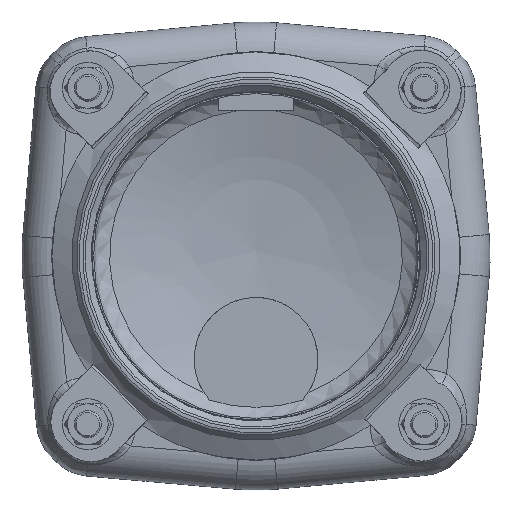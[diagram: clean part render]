
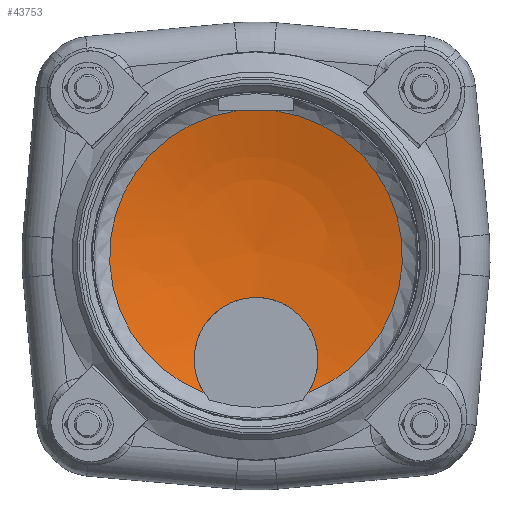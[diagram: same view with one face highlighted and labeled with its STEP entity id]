
A CAD part, front view. The second image highlights one B-rep face of the part: STEP entity #43753.
In plain terms, the highlighted free-form (B-spline) face has degree [2, 2] with [3, 3] control points.
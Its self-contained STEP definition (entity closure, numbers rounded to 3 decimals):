
#41456=CARTESIAN_POINT('',(30.678,120.906,-80.777));
#41457=VERTEX_POINT('',#41456);
#41467=CARTESIAN_POINT('',(-30.678,120.906,-80.777));
#41468=VERTEX_POINT('',#41467);
#41469=CARTESIAN_POINT('',(-30.678,120.906,-80.777));
#41470=CARTESIAN_POINT('',(-32.135,121.369,-78.516));
#41471=CARTESIAN_POINT('',(-33.355,121.869,-76.067));
#41472=CARTESIAN_POINT('',(-34.284,122.388,-73.523));
#41473=CARTESIAN_POINT('',(-35.19,122.893,-71.045));
#41474=CARTESIAN_POINT('',(-35.819,123.416,-68.476));
#41475=CARTESIAN_POINT('',(-36.166,123.933,-65.925));
#41476=CARTESIAN_POINT('',(-36.317,124.157,-64.82));
#41477=CARTESIAN_POINT('',(-36.415,124.381,-63.718));
#41478=CARTESIAN_POINT('',(-36.464,124.601,-62.629));
#41479=CARTESIAN_POINT('',(-36.491,124.726,-62.013));
#41480=CARTESIAN_POINT('',(-36.503,124.849,-61.404));
#41481=CARTESIAN_POINT('',(-36.499,124.972,-60.795));
#41482=CARTESIAN_POINT('',(-36.488,125.378,-58.785));
#41483=CARTESIAN_POINT('',(-36.309,125.795,-56.718));
#41484=CARTESIAN_POINT('',(-35.944,126.211,-54.652));
#41485=CARTESIAN_POINT('',(-35.479,126.741,-52.02));
#41486=CARTESIAN_POINT('',(-34.712,127.269,-49.392));
#41487=CARTESIAN_POINT('',(-33.659,127.771,-46.881));
#41488=CARTESIAN_POINT('',(-32.671,128.243,-44.527));
#41489=CARTESIAN_POINT('',(-31.432,128.693,-42.275));
#41490=CARTESIAN_POINT('',(-29.996,129.106,-40.203));
#41491=CARTESIAN_POINT('',(-29.203,129.334,-39.059));
#41492=CARTESIAN_POINT('',(-28.35,129.551,-37.97));
#41493=CARTESIAN_POINT('',(-27.453,129.755,-36.946));
#41494=CARTESIAN_POINT('',(-26.879,129.885,-36.291));
#41495=CARTESIAN_POINT('',(-26.289,130.01,-35.664));
#41496=CARTESIAN_POINT('',(-25.681,130.129,-35.062));
#41497=CARTESIAN_POINT('',(-25.157,130.232,-34.544));
#41498=CARTESIAN_POINT('',(-24.615,130.333,-34.039));
#41499=CARTESIAN_POINT('',(-24.051,130.431,-33.544));
#41500=CARTESIAN_POINT('',(-22.169,130.758,-31.896));
#41501=CARTESIAN_POINT('',(-20.056,131.056,-30.393));
#41502=CARTESIAN_POINT('',(-17.783,131.307,-29.125));
#41503=CARTESIAN_POINT('',(-15.489,131.56,-27.845));
#41504=CARTESIAN_POINT('',(-13.033,131.766,-26.804));
#41505=CARTESIAN_POINT('',(-10.508,131.916,-26.045));
#41506=CARTESIAN_POINT('',(-8.214,132.052,-25.356));
#41507=CARTESIAN_POINT('',(-5.864,132.143,-24.899));
#41508=CARTESIAN_POINT('',(-3.543,132.187,-24.672));
#41509=CARTESIAN_POINT('',(-2.531,132.207,-24.574));
#41510=CARTESIAN_POINT('',(-1.525,132.218,-24.518));
#41511=CARTESIAN_POINT('',(-0.532,132.22,-24.504));
#41512=CARTESIAN_POINT('',(0.24,132.223,-24.493));
#41513=CARTESIAN_POINT('',(1.007,132.22,-24.506));
#41514=CARTESIAN_POINT('',(1.786,132.213,-24.544));
#41515=CARTESIAN_POINT('',(3.266,132.198,-24.616));
#41516=CARTESIAN_POINT('',(4.767,132.166,-24.781));
#41517=CARTESIAN_POINT('',(6.267,132.114,-25.042));
#41518=CARTESIAN_POINT('',(8.818,132.026,-25.487));
#41519=CARTESIAN_POINT('',(11.363,131.883,-26.214));
#41520=CARTESIAN_POINT('',(13.796,131.686,-27.208));
#41521=CARTESIAN_POINT('',(16.339,131.481,-28.246));
#41522=CARTESIAN_POINT('',(18.76,131.218,-29.575));
#41523=CARTESIAN_POINT('',(20.965,130.911,-31.121));
#41524=CARTESIAN_POINT('',(22.123,130.75,-31.934));
#41525=CARTESIAN_POINT('',(23.221,130.577,-32.806));
#41526=CARTESIAN_POINT('',(24.25,130.396,-33.72));
#41527=CARTESIAN_POINT('',(24.819,130.295,-34.226));
#41528=CARTESIAN_POINT('',(25.365,130.193,-34.743));
#41529=CARTESIAN_POINT('',(25.893,130.087,-35.275));
#41530=CARTESIAN_POINT('',(26.612,129.943,-35.998));
#41531=CARTESIAN_POINT('',(27.309,129.792,-36.76));
#41532=CARTESIAN_POINT('',(27.978,129.633,-37.559));
#41533=CARTESIAN_POINT('',(29.632,129.24,-39.533));
#41534=CARTESIAN_POINT('',(31.112,128.801,-41.731));
#41535=CARTESIAN_POINT('',(32.338,128.333,-44.074));
#41536=CARTESIAN_POINT('',(33.584,127.857,-46.453));
#41537=CARTESIAN_POINT('',(34.568,127.351,-48.983));
#41538=CARTESIAN_POINT('',(35.259,126.832,-51.563));
#41539=CARTESIAN_POINT('',(35.923,126.333,-54.046));
#41540=CARTESIAN_POINT('',(36.315,125.824,-56.574));
#41541=CARTESIAN_POINT('',(36.447,125.326,-59.042));
#41542=CARTESIAN_POINT('',(36.493,125.153,-59.899));
#41543=CARTESIAN_POINT('',(36.509,124.983,-60.743));
#41544=CARTESIAN_POINT('',(36.495,124.811,-61.59));
#41545=CARTESIAN_POINT('',(36.473,124.528,-62.992));
#41546=CARTESIAN_POINT('',(36.368,124.238,-64.421));
#41547=CARTESIAN_POINT('',(36.176,123.947,-65.856));
#41548=CARTESIAN_POINT('',(35.827,123.421,-68.452));
#41549=CARTESIAN_POINT('',(35.187,122.889,-71.067));
#41550=CARTESIAN_POINT('',(34.261,122.375,-73.587));
#41551=CARTESIAN_POINT('',(33.335,121.861,-76.108));
#41552=CARTESIAN_POINT('',(32.123,121.365,-78.536));
#41553=CARTESIAN_POINT('',(30.678,120.906,-80.777));
#41554=B_SPLINE_CURVE_WITH_KNOTS('',3,(#41469,#41470,#41471,#41472,#41473,#41474,#41475,#41476,#41477,#41478,#41479,#41480,#41481,#41482,#41483,#41484,#41485,#41486,#41487,#41488,#41489,#41490,#41491,#41492,#41493,#41494,#41495,#41496,#41497,#41498,#41499,#41500,#41501,#41502,#41503,#41504,#41505,#41506,#41507,#41508,#41509,#41510,#41511,#41512,#41513,#41514,#41515,#41516,#41517,#41518,#41519,#41520,#41521,#41522,#41523,#41524,#41525,#41526,#41527,#41528,#41529,#41530,#41531,#41532,#41533,#41534,#41535,#41536,#41537,#41538,#41539,#41540,#41541,#41542,#41543,#41544,#41545,#41546,#41547,#41548,#41549,#41550,#41551,#41552,#41553),.UNSPECIFIED.,.F.,.U.,(4,3,3,3,3,3,3,3,3,3,3,3,3,3,3,3,3,3,3,3,3,3,3,3,3,3,3,3,4),(-13.14,-12.361,-11.602,-11.273,-11.088,-10.474,-9.693,-8.96,-8.555,-8.297,-8.075,-7.333,-6.584,-5.904,-5.607,-5.377,-4.94,-4.195,-3.417,-3.008,-2.781,-2.473,-1.713,-0.941,-0.198,0.06,0.487,1.259,2.031),.UNSPECIFIED.);
#41555=EDGE_CURVE('',#41468,#41457,#41554,.T.);
#41648=CARTESIAN_POINT('',(-11.774,120.906,85.6));
#41649=VERTEX_POINT('',#41648);
#41650=CARTESIAN_POINT('',(0.0,120.906,0.0));
#41651=DIRECTION('',(0.0,1.0,0.0));
#41652=DIRECTION('',(-1.0,0.0,0.0));
#41653=AXIS2_PLACEMENT_3D('',#41650,#41651,#41652);
#41654=CIRCLE('',#41653,86.406);
#41655=EDGE_CURVE('',#41468,#41649,#41654,.T.);
#41709=CARTESIAN_POINT('',(11.774,120.906,85.6));
#41710=VERTEX_POINT('',#41709);
#41718=CARTESIAN_POINT('',(0.0,120.906,0.0));
#41719=DIRECTION('',(0.0,1.0,0.0));
#41720=DIRECTION('',(-1.0,0.0,0.0));
#41721=AXIS2_PLACEMENT_3D('',#41718,#41719,#41720);
#41722=CIRCLE('',#41721,86.406);
#41723=EDGE_CURVE('',#41710,#41457,#41722,.T.);
#43717=CARTESIAN_POINT('',(0.,-176.809,85.6));
#43718=DIRECTION('',(0.0,0.0,1.0));
#43719=DIRECTION('',(0.0,-1.0,0.0));
#43720=AXIS2_PLACEMENT_3D('',#43717,#43718,#43719);
#43721=CIRCLE('',#43720,297.947);
#43722=EDGE_CURVE('',#41710,#41649,#43721,.T.);
#43730=CARTESIAN_POINT('',(83.329,110.432,-81.539));
#43731=CARTESIAN_POINT('',(90.52,132.05,1.964));
#43732=CARTESIAN_POINT('',(84.617,108.995,85.183));
#43733=CARTESIAN_POINT('',(0.,134.849,-80.685));
#43734=CARTESIAN_POINT('',(0.,158.574,2.892));
#43735=CARTESIAN_POINT('',(0.,133.788,86.051));
#43736=CARTESIAN_POINT('',(-83.329,110.432,-81.539));
#43737=CARTESIAN_POINT('',(-90.52,132.05,1.964));
#43738=CARTESIAN_POINT('',(-84.617,108.995,85.183));
#43746=(BOUNDED_SURFACE()B_SPLINE_SURFACE(2,2,((#43730,#43733,#43736),(#43731,#43734,#43737),(#43732,#43735,#43738)),.UNSPECIFIED.,.F.,.F.,.U.)B_SPLINE_SURFACE_WITH_KNOTS((3,3),(3,3),(-0.3,0.245),(0.0,0.57),.UNSPECIFIED.)GEOMETRIC_REPRESENTATION_ITEM()RATIONAL_B_SPLINE_SURFACE(((1.0,0.96,1.0),(0.963,0.924,0.963),(1.0,0.96,1.0)))REPRESENTATION_ITEM('')SURFACE());
#43747=ORIENTED_EDGE('',*,*,#41555,.T.);
#43748=ORIENTED_EDGE('',*,*,#41723,.F.);
#43749=ORIENTED_EDGE('',*,*,#43722,.T.);
#43750=ORIENTED_EDGE('',*,*,#41655,.F.);
#43751=EDGE_LOOP('',(#43747,#43748,#43749,#43750));
#43752=FACE_OUTER_BOUND('',#43751,.T.);
#43753=ADVANCED_FACE('',(#43752),#43746,.T.);
